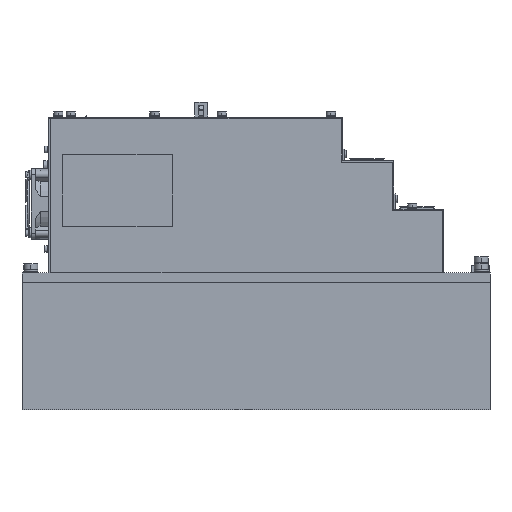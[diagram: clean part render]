
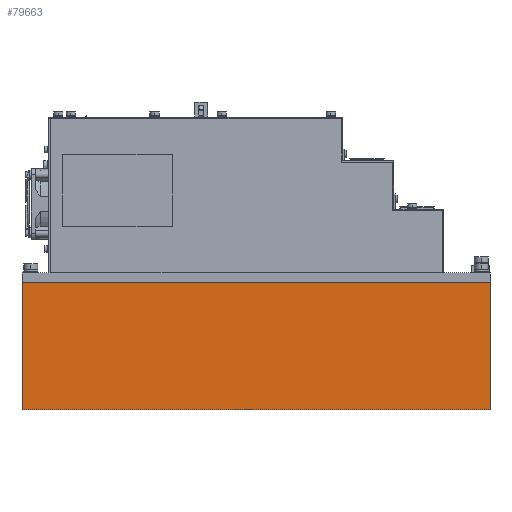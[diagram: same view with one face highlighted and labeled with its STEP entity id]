
A CAD part, left-side view. The second image highlights one B-rep face of the part: STEP entity #79663.
In plain terms, the highlighted planar face has unit normal (-1, 0, 0).
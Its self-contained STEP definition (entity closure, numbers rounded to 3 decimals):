
#32591 = ORIENTED_EDGE ( 'NONE', *, *, #33016, .T. ) ;
#32612 = ORIENTED_EDGE ( 'NONE', *, *, #73953, .F. ) ;
#33016 = EDGE_CURVE ( 'NONE', #74375, #33021, #71208, .T. ) ;
#33021 = VERTEX_POINT ( 'NONE', #71199 ) ;
#42943 = CARTESIAN_POINT ( 'NONE',  ( -25., -392.5, 108.8 ) ) ;
#42970 = DIRECTION ( 'NONE',  ( 0., -1., 0. ) ) ;
#42971 = VECTOR ( 'NONE', #42970, 1000. ) ;
#42973 = CARTESIAN_POINT ( 'NONE',  ( -25., 262.021, 108.8 ) ) ;
#42975 = LINE ( 'NONE', #42973, #42971 ) ;
#43056 = CARTESIAN_POINT ( 'NONE',  ( -25., 7.5, 108.8 ) ) ;
#43077 = CARTESIAN_POINT ( 'NONE',  ( -25., -392.5, 0. ) ) ;
#44198 = DIRECTION ( 'NONE',  ( 0., 0., -1. ) ) ;
#44201 = DIRECTION ( 'NONE',  ( 1., 0., 0. ) ) ;
#44203 = CARTESIAN_POINT ( 'NONE',  ( -25., 262.021, 108.8 ) ) ;
#44204 = AXIS2_PLACEMENT_3D ( 'NONE', #44203, #44201, #44198 ) ;
#44209 = PLANE ( 'NONE',  #44204 ) ;
#44213 = FACE_OUTER_BOUND ( 'NONE', #79163, .T. ) ;
#45018 = DIRECTION ( 'NONE',  ( 0., -1., 0. ) ) ;
#45019 = VECTOR ( 'NONE', #45018, 1000. ) ;
#45021 = CARTESIAN_POINT ( 'NONE',  ( -25., 262.021, 0. ) ) ;
#45024 = LINE ( 'NONE', #45021, #45019 ) ;
#45193 = DIRECTION ( 'NONE',  ( 0., 0., -1. ) ) ;
#45195 = VECTOR ( 'NONE', #45193, 1000. ) ;
#45197 = CARTESIAN_POINT ( 'NONE',  ( -25., -392.5, 0. ) ) ;
#45198 = LINE ( 'NONE', #45197, #45195 ) ;
#71199 = CARTESIAN_POINT ( 'NONE',  ( -25., 7.5, 0. ) ) ;
#71205 = DIRECTION ( 'NONE',  ( 0., 0., -1. ) ) ;
#71206 = VECTOR ( 'NONE', #71205, 1000. ) ;
#71207 = CARTESIAN_POINT ( 'NONE',  ( -25., 7.5, 0. ) ) ;
#71208 = LINE ( 'NONE', #71207, #71206 ) ;
#73953 = EDGE_CURVE ( 'NONE', #74375, #74098, #42975, .T. ) ;
#74098 = VERTEX_POINT ( 'NONE', #42943 ) ;
#74177 = VERTEX_POINT ( 'NONE', #43077 ) ;
#74375 = VERTEX_POINT ( 'NONE', #43056 ) ;
#79163 = EDGE_LOOP ( 'NONE', ( #32612, #32591, #83862, #83146 ) ) ;
#79663 = ADVANCED_FACE ( 'NONE', ( #44213 ), #44209, .F. ) ;
#83146 = ORIENTED_EDGE ( 'NONE', *, *, #84626, .F. ) ;
#83841 = EDGE_CURVE ( 'NONE', #33021, #74177, #45024, .T. ) ;
#83862 = ORIENTED_EDGE ( 'NONE', *, *, #83841, .T. ) ;
#84626 = EDGE_CURVE ( 'NONE', #74098, #74177, #45198, .T. ) ;
